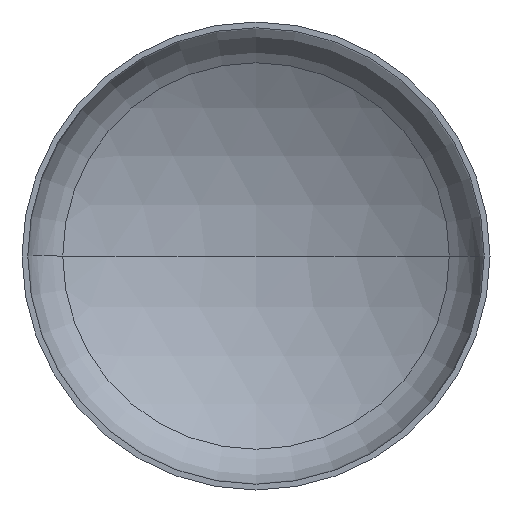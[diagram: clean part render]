
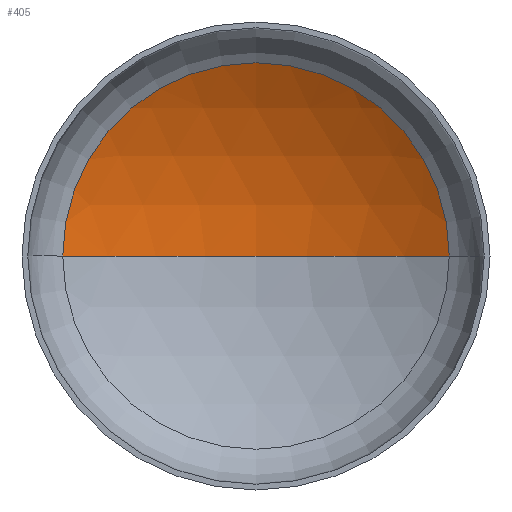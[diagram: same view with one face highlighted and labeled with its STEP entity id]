
A CAD part, front view. The second image highlights one B-rep face of the part: STEP entity #405.
In plain terms, the highlighted spherical face has radius 2720 mm.
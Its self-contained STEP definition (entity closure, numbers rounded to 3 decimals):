
#7 = AXIS2_PLACEMENT_3D ( 'NONE', #139, #333, #242 ) ;
#19 = EDGE_LOOP ( 'NONE', ( #149, #42, #136 ) ) ;
#28 = AXIS2_PLACEMENT_3D ( 'NONE', #246, #193, #192 ) ;
#34 = AXIS2_PLACEMENT_3D ( 'NONE', #199, #212, #216 ) ;
#38 = CIRCLE ( 'NONE', #34, 1403.991 ) ;
#42 = ORIENTED_EDGE ( 'NONE', *, *, #168, .T. ) ;
#44 = VERTEX_POINT ( 'NONE', #270 ) ;
#74 = SPHERICAL_SURFACE ( 'NONE', #323, 2720. ) ;
#131 = CARTESIAN_POINT ( 'NONE',  ( 0., -1749.983, 0. ) ) ;
#136 = ORIENTED_EDGE ( 'NONE', *, *, #147, .T. ) ;
#139 = CARTESIAN_POINT ( 'NONE',  ( 0., -1749.983, 0. ) ) ;
#142 = VERTEX_POINT ( 'NONE', #387 ) ;
#147 = EDGE_CURVE ( 'NONE', #44, #142, #38, .T. ) ;
#149 = ORIENTED_EDGE ( 'NONE', *, *, #368, .F. ) ;
#168 = EDGE_CURVE ( 'NONE', #170, #44, #250, .T. ) ;
#170 = VERTEX_POINT ( 'NONE', #260 ) ;
#176 = DIRECTION ( 'NONE',  ( -1., 0., 0. ) ) ;
#192 = DIRECTION ( 'NONE',  ( -1., 0., 0. ) ) ;
#193 = DIRECTION ( 'NONE',  ( 0., 0., -1. ) ) ;
#198 = FACE_OUTER_BOUND ( 'NONE', #19, .T. ) ;
#199 = CARTESIAN_POINT ( 'NONE',  ( 0., 579.654, 0. ) ) ;
#212 = DIRECTION ( 'NONE',  ( 0., -1., 0. ) ) ;
#216 = DIRECTION ( 'NONE',  ( 1., 0., 0. ) ) ;
#240 = DIRECTION ( 'NONE',  ( 0., 0., -1. ) ) ;
#242 = DIRECTION ( 'NONE',  ( 1., 0., 0. ) ) ;
#246 = CARTESIAN_POINT ( 'NONE',  ( 0., -1749.983, 0. ) ) ;
#250 = CIRCLE ( 'NONE', #28, 2720. ) ;
#260 = CARTESIAN_POINT ( 'NONE',  ( 0., 970.017, 0. ) ) ;
#270 = CARTESIAN_POINT ( 'NONE',  ( 1403.991, 579.654, 0. ) ) ;
#323 = AXIS2_PLACEMENT_3D ( 'NONE', #131, #240, #176 ) ;
#333 = DIRECTION ( 'NONE',  ( 0., 0., 1. ) ) ;
#334 = CIRCLE ( 'NONE', #7, 2720. ) ;
#368 = EDGE_CURVE ( 'NONE', #170, #142, #334, .T. ) ;
#387 = CARTESIAN_POINT ( 'NONE',  ( -1403.991, 579.654, 0. ) ) ;
#405 = ADVANCED_FACE ( 'NONE', ( #198 ), #74, .F. ) ;
